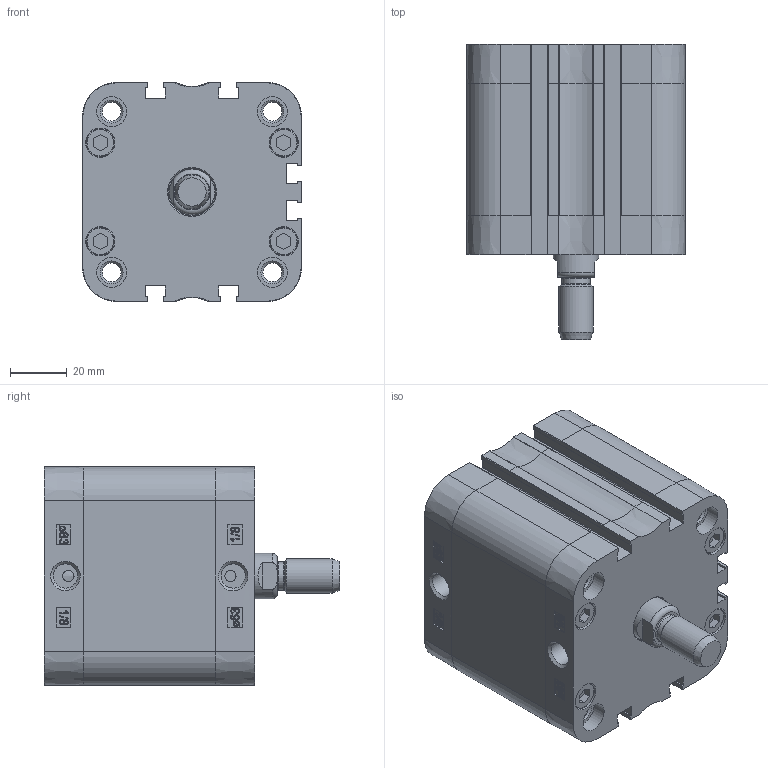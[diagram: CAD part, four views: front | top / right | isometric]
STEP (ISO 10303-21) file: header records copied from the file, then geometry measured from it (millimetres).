
FILE_DESCRIPTION((''),'2;1');
FILE_NAME('T:\Archivio Inventor\- CATALOGHI 2012\SERIE P - NUOVA\PDM\PDM063\PDM063.---.GS.M\PDM063.025.GS.M.stp','2013-02-04T09:21:07',('Administrator'),(''),'Autodesk Inventor 2012','Autodesk Inventor 2012','');
FILE_SCHEMA(('CONFIG_CONTROL_DESIGN'));
Length unit declared in the file: millimetre
Products named in the file (1): PDM063.025.GS.M
Bounding box: 77 x 104 x 77 mm (x, y, z)
Volume: 219827 mm3; surface area: 82945.2 mm2
Topology: 1 solids, 5 shells, 824 faces, 1993 edges, 1252 vertices
Faces by surface type: plane 346, bspline 218, cylinder 142, torus 55, cone 45, sphere 18
Full cylindrical faces by diameter (mm): 4 x2, 6.3 x4, 6.647 x8, 8.047 x4, 8.566 x2, 9.8 x8, 10 x1, 10.3 x8, 10.5 x8, 12 x2, 16 x1, 16.5 x1, 63 x1, 65.4 x1, 65.6 x1
Entity records: 27348 total; most frequent: CARTESIAN_POINT 9100, ORIENTED_EDGE 3744, DIRECTION 3031, EDGE_CURVE 1872, VERTEX_POINT 1231, AXIS2_PLACEMENT_3D 1026, EDGE_LOOP 1003, VECTOR 979
